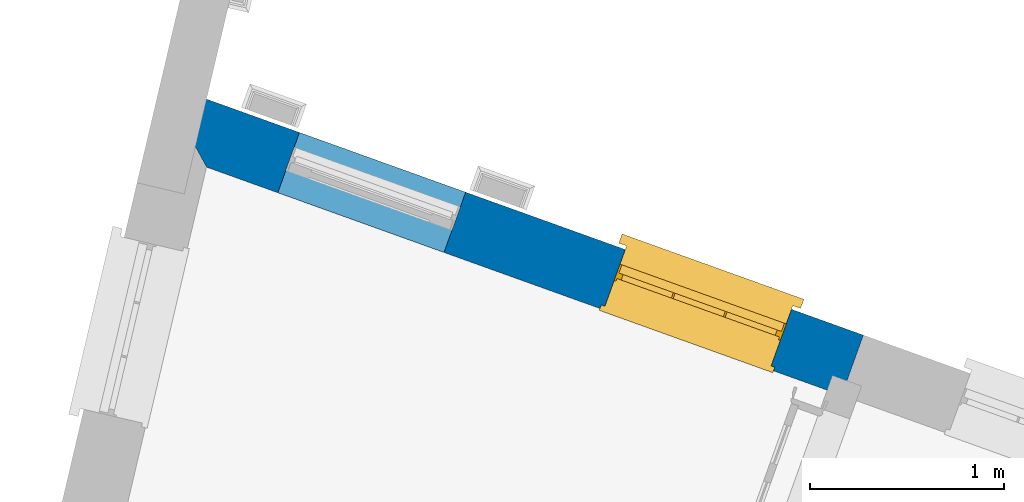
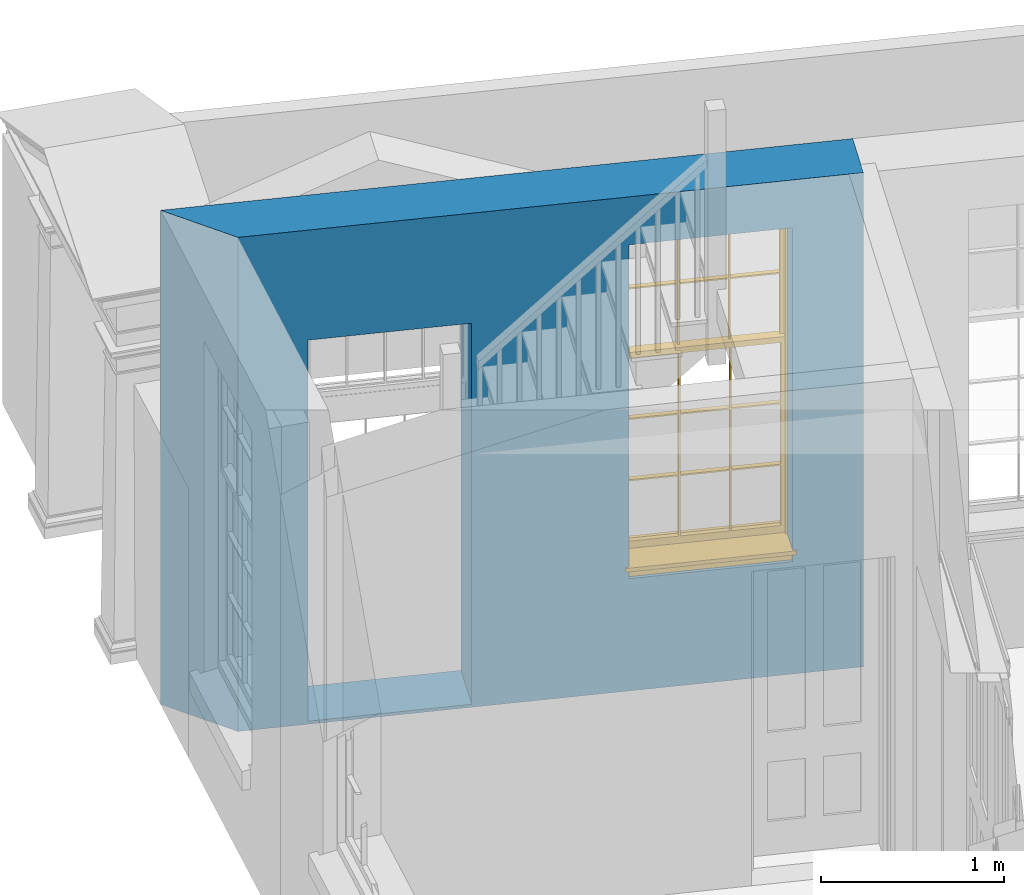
# One storey, part 4 of 6: 1 wall, 1 window, 2 openings.
"""IFC4 building model written with IfcOpenShell, lengths in metres."""

from ifc_helpers import new_model, si_unit, frame, origin, origin_with_axes, place, context, subcontext, project, spatial, polyline, outline, extrude, faceted_brep, source, transform, mapped, material, layer, layer_set, layer_usage, type_object, type_shapes, element, fill, save


model = new_model("IFC4")

# Units and contexts
model_context = context("Model", 3, world=origin_with_axes())
body_context = subcontext(model_context, "Body", "Model", "MODEL_VIEW")
ifc_project = project(units=[si_unit("PLANEANGLEUNIT", "RADIAN"), si_unit("MASSUNIT", "GRAM", prefix="KILO"), si_unit("FORCEUNIT", "NEWTON", prefix="KILO"), si_unit("LENGTHUNIT", "METRE"), si_unit("AREAUNIT", "SQUARE_METRE"), si_unit("VOLUMEUNIT", "CUBIC_METRE")], contexts=[model_context, model_context])

# Sites, building, storey
site_1_placement = place(None, origin_with_axes())
site_1 = spatial("IfcSite", under=ifc_project, at=site_1_placement, Name="Tamar")
site_2_placement = place(site_1_placement, origin_with_axes())
site_2 = spatial("IfcSite", under=site_1, at=site_2_placement, Name="Site plot-22", CompositionType="ELEMENT")
building_placement = place(None, origin_with_axes())
building = spatial("IfcBuilding", under=site_2, at=building_placement, Name="Building plot-22", CompositionType="ELEMENT")
storey_placement = place(None, frame((0.0, 0.0, 24.5), z_axis=(0.0, 0.0, 1.0), x_axis=(1.0, 0.0, 0.0)))
storey = spatial("IfcBuildingStorey", under=building, at=storey_placement, Name="plot-22 0", CompositionType="ELEMENT", Elevation=24.5)

# Wall, openings, window
ifc_material = material(Name="Masonry")
ifc_layer = layer(ifc_material, 0.33, ventilated=False)
ifc_layer_set = layer_set([ifc_layer], Name="exterior_0.08_0.25")
ifc_layer_usage = layer_usage(ifc_layer_set, "AXIS2", "POSITIVE", -0.25)
wall_type = type_object("IfcWallType", Name="exterior_0.08_0.25", PredefinedType="SOLIDWALL", material=ifc_layer_set)
wall_placement = place(storey_placement, frame((254.429625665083, 275.023925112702, 0.0), z_axis=(0.0, 0.0, 1.0), x_axis=(-0.941087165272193, 0.338164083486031, 0.0)))
wall = element("IfcWall", 1, at=wall_placement, inside=storey, type_object=wall_type, material=ifc_layer_usage, Name="exterior", context=body_context, shape_type="SweptSolid", body=[
    extrude(outline(polyline([(5.58265906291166e-15, 0.0799999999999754), (-3.34024049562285e-14, -0.250000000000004), (3.8477904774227, -0.24999999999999), (3.47775004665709, 0.0800000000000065), (5.58265906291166e-15, 0.0799999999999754)])), origin_with_axes(), (0.0, 0.0, 1.0), 3.3),
])
opening_1_placement = place(wall_placement, frame((0.393728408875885, 0.0, 0.75)))
opening_1 = element("IfcOpeningElement", 2, at=opening_1_placement, cuts=wall, Name="My Opening", ObjectType="Opening", context=body_context, shape_type="SweptSolid", body=[
    extrude(outline(polyline([(0.0, -0.270000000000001), (0.910000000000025, -0.27000000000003), (0.910000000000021, 1.09999999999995), (-4.21884749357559e-15, 1.09999999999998), (0.0, -0.270000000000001)])), origin_with_axes(), (0.0, 0.0, 1.0), 2.23),
])
opening_2_placement = place(wall_placement, frame((2.17745681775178, 0.0, 0.0199999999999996)))
element("IfcOpeningElement", 3, at=opening_2_placement, cuts=wall, Name="My Opening", ObjectType="Opening", context=body_context, shape_type="SweptSolid", body=[
    extrude(outline(polyline([(0.0, -0.270000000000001), (0.910000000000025, -0.27000000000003), (0.910000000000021, 1.09999999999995), (-4.44089209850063e-15, 1.09999999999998), (0.0, -0.270000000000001)])), origin_with_axes(), (0.0, 0.0, 1.0), 2.545),
])
window_type = type_object("IfcWindowType", Name="sash_big_taller", PartitioningType="DOUBLE_PANEL_HORIZONTAL", PredefinedType="NOTDEFINED")
shared_shape = source(origin(), body_context, "Body", "Brep", [
    faceted_brep([(0.033125, 0.145, 1.385209), (0.01, 0.145, 1.385209), (0.033125, 0.145, 1.786042), (0.876875, 0.145, 1.385209), (0.876875, 0.145, 1.786042), (0.9, 0.145, 1.385209), (0.876875, 0.145, 1.796042), (0.876875, 0.145, 2.196875), (0.9, 0.145, 2.22), (0.033125, 0.145, 2.196875), (0.033125, 0.145, 1.796042), (0.01, 0.145, 2.22), (0.876875, 0.115, 1.786042), (0.876875, 0.115, 1.385209), (0.9, 0.115, 1.347084), (0.033125, 0.115, 2.196875), (0.01, 0.115, 2.22), (0.033125, 0.115, 1.796042), (0.01, 0.115, 1.347084), (0.033125, 0.115, 1.385209), (0.033125, 0.115, 1.786042), (0.876875, 0.115, 2.196875), (0.876875, 0.115, 1.796042), (0.9, 0.115, 2.22), (0.033125, 0.145, 1.347084), (0.01, 0.145, 1.347084), (0.033125, 0.145, 0.94625), (0.876875, 0.145, 1.347084), (0.876875, 0.145, 0.94625), (0.9, 0.145, 1.347084), (0.876875, 0.145, 0.52625), (0.876875, 0.145, 0.125417), (0.9, 0.145, 0.077167), (0.033125, 0.145, 0.125417), (0.033125, 0.145, 0.52625), (0.01, 0.145, 0.077167), (-0.0425, 0.0, 0.01), (-0.0425, -0.05, 0.001667), (0.0, 0.0, 0.01), (0.9525, 0.0, 0.01), (0.91, 0.0, 0.01), (0.9525, -0.05, 0.001667), (-0.02, 0.33, 0.077167), (0.0, 0.33, 0.077167), (-0.02, 0.36, 0.077167), (0.0, 0.19, 0.077167), (0.01, 0.19, 0.077167), (0.91, 0.19, 0.077167), (0.91, 0.33, 0.077167), (0.9, 0.19, 0.077167), (0.93, 0.33, 0.077167), (0.93, 0.36, 0.077167), (0.01, 0.175, 1.385209), (0.9, 0.175, 1.385209), (0.876875, 0.175, 0.125417), (0.876875, 0.175, 0.52625), (0.9, 0.175, 0.077167), (0.876875, 0.175, 0.94625), (0.876875, 0.175, 1.347084), (0.033125, 0.175, 0.125417), (0.01, 0.175, 0.077167), (0.033125, 0.175, 0.52625), (0.033125, 0.175, 1.347084), (0.033125, 0.175, 0.94625), (-0.02, 0.33, 0.052167), (-0.02, 0.36, 0.052167), (0.93, 0.36, 0.052167), (0.93, 0.33, 0.052167), (0.91, 0.33, 0.052167), (0.0, 0.33, 0.052167), (0.91, 0.1, 0.026667), (0.0, 0.1, 0.026667), (-0.0425, -0.05, -0.123333), (0.9525, -0.05, -0.123333), (-0.0425, 0.0, -0.123333), (0.9525, 0.0, -0.123333), (0.01, 0.19, 2.22), (0.9, 0.19, 2.22), (0.0, 0.19, 2.23), (0.91, 0.19, 2.23), (0.01, 0.1, 0.077167), (0.9, 0.1, 0.077167), (0.592292, 0.145, 0.125417), (0.592292, 0.175, 0.125417), (0.317708, 0.175, 0.125417), (0.317708, 0.145, 0.125417), (0.592292, 0.145, 0.53625), (0.317708, 0.145, 0.53625), (0.317708, 0.145, 0.52625), (0.592292, 0.145, 0.52625), (0.592292, 0.175, 0.53625), (0.317708, 0.175, 0.53625), (0.592292, 0.115, 1.796042), (0.592292, 0.145, 1.796042), (0.317708, 0.145, 1.796042), (0.317708, 0.115, 1.796042), (0.317708, 0.115, 1.786042), (0.592292, 0.115, 1.786042), (0.317708, 0.145, 1.786042), (0.592292, 0.145, 1.786042), (0.602292, 0.115, 1.786042), (0.592292, 0.115, 1.385209), (0.602292, 0.115, 1.385209), (0.602292, 0.145, 1.385209), (0.592292, 0.145, 1.385209), (0.602292, 0.145, 1.786042), (0.876875, 0.145, 0.53625), (0.876875, 0.175, 0.53625), (0.602292, 0.175, 0.53625), (0.602292, 0.145, 0.53625), (0.317708, 0.175, 0.52625), (0.307708, 0.175, 0.125417), (0.307708, 0.175, 0.52625), (0.602292, 0.175, 0.52625), (0.602292, 0.175, 0.125417), (0.592292, 0.175, 0.52625), (0.307708, 0.175, 0.53625), (0.033125, 0.175, 0.53625), (0.317708, 0.175, 1.347084), (0.317708, 0.175, 0.94625), (0.307708, 0.175, 0.94625), (0.307708, 0.175, 1.347084), (0.602292, 0.175, 1.347084), (0.602292, 0.175, 0.94625), (0.592292, 0.175, 0.94625), (0.592292, 0.175, 1.347084), (0.307708, 0.145, 0.52625), (0.307708, 0.145, 0.125417), (0.307708, 0.145, 0.53625), (0.033125, 0.145, 0.53625), (0.307708, 0.145, 1.347084), (0.307708, 0.145, 0.94625), (0.592292, 0.145, 1.347084), (0.592292, 0.145, 0.94625), (0.317708, 0.145, 0.94625), (0.317708, 0.145, 1.347084), (0.602292, 0.145, 0.94625), (0.602292, 0.145, 1.347084), (0.602292, 0.145, 0.52625), (0.602292, 0.145, 0.125417), (0.307708, 0.115, 1.796042), (0.307708, 0.115, 1.786042), (0.307708, 0.115, 1.385209), (0.317708, 0.115, 1.385209), (0.317708, 0.115, 2.196875), (0.307708, 0.115, 2.196875), (0.602292, 0.115, 2.196875), (0.592292, 0.115, 2.196875), (0.602292, 0.115, 1.796042), (0.602292, 0.145, 1.796042), (0.307708, 0.145, 1.796042), (0.307708, 0.145, 2.196875), (0.317708, 0.145, 2.196875), (0.592292, 0.145, 2.196875), (0.602292, 0.145, 2.196875), (0.307708, 0.145, 1.786042), (0.317708, 0.145, 1.385209), (0.307708, 0.145, 1.385209), (0.876875, 0.175, 0.93625), (0.033125, 0.175, 0.93625), (0.033125, 0.145, 0.93625), (0.876875, 0.145, 0.93625), (0.91, 0.1, 2.23), (0.9, 0.1, 2.22), (0.01, 0.1, 2.22), (0.0, 0.1, 2.23), (0.91, 0.0, 0.0), (0.0, 0.0, 0.0), (0.91, 0.33, 0.0), (0.0, 0.33, 0.0), (0.317708, 0.145, 0.93625), (0.592292, 0.145, 0.93625), (0.317708, 0.175, 0.93625), (0.307708, 0.175, 0.93625), (0.602292, 0.175, 0.93625), (0.592292, 0.175, 0.93625), (0.307708, 0.145, 0.93625), (0.602292, 0.145, 0.93625)], [[[0, 1, 2]], [[3, 4, 5]], [[6, 7, 8]], [[9, 10, 11]], [[12, 13, 14]], [[15, 16, 17]], [[18, 19, 20]], [[21, 22, 23]], [[24, 25, 26]], [[27, 28, 29]], [[30, 31, 32]], [[33, 34, 35]], [[14, 27, 29]], [[25, 24, 18]], [[36, 37, 38]], [[39, 40, 41]], [[42, 43, 44]], [[45, 46, 43]], [[47, 48, 49]], [[50, 51, 48]], [[1, 0, 52]], [[5, 53, 3]], [[54, 55, 56]], [[57, 58, 53]], [[59, 60, 61]], [[62, 63, 52]], [[48, 43, 46, 49]], [[51, 44, 43, 48]], [[64, 42, 44, 65]], [[65, 44, 51, 66]], [[66, 51, 50, 67]], [[65, 66, 68, 69]], [[60, 56, 49, 46]], [[70, 71, 38, 40]], [[37, 41, 40, 38]], [[37, 72, 73, 41]], [[74, 75, 73, 72]], [[8, 11, 76, 77]], [[76, 78, 79, 77]], [[32, 35, 80, 81]], [[81, 80, 71, 70]], [[82, 83, 84, 85]], [[86, 87, 88, 89]], [[86, 90, 91, 87]], [[92, 93, 94, 95]], [[92, 95, 96, 97]], [[96, 98, 99, 97]], [[100, 97, 101, 102]], [[103, 104, 99, 105]], [[97, 99, 104, 101]], [[102, 103, 105, 100]], [[106, 107, 108, 109]], [[110, 84, 111, 112]], [[113, 114, 83, 115]], [[116, 112, 61, 117]], [[90, 115, 110, 91]], [[118, 119, 120, 121]], [[122, 123, 124, 125]], [[113, 108, 107, 55]], [[126, 112, 111, 127]], [[34, 61, 112, 126]], [[89, 115, 83, 82]], [[88, 110, 115, 89]], [[85, 84, 110, 88]], [[128, 116, 117, 129]], [[130, 121, 120, 131]], [[132, 125, 124, 133]], [[134, 119, 118, 135]], [[136, 123, 122, 137]], [[138, 113, 55, 30]], [[139, 114, 113, 138]], [[138, 30, 106, 109]], [[88, 126, 127, 85]], [[138, 89, 82, 139]], [[137, 132, 133, 136]], [[128, 129, 34, 126]], [[135, 130, 131, 134]], [[140, 17, 20, 141]], [[96, 141, 142, 143]], [[144, 145, 140, 95]], [[146, 147, 92, 148]], [[100, 12, 22, 148]], [[149, 6, 4, 105]], [[94, 150, 151, 152]], [[149, 93, 153, 154]], [[99, 98, 94, 93]], [[155, 2, 10, 150]], [[156, 157, 155, 98]], [[141, 155, 157, 142]], [[20, 2, 155, 141]], [[143, 156, 98, 96]], [[140, 150, 10, 17]], [[145, 151, 150, 140]], [[147, 153, 93, 92]], [[95, 94, 152, 144]], [[22, 6, 149, 148]], [[148, 149, 154, 146]], [[100, 105, 4, 12]], [[109, 86, 89, 138]], [[108, 113, 115, 90]], [[91, 110, 112, 116]], [[87, 128, 126, 88]], [[97, 100, 148, 92]], [[141, 96, 95, 140]], [[98, 155, 150, 94]], [[105, 99, 93, 149]], [[143, 101, 104, 156]], [[135, 118, 125, 132]], [[144, 152, 153, 147]], [[127, 111, 59, 33]], [[15, 9, 151, 145]], [[146, 154, 7, 21]], [[31, 54, 114, 139]], [[36, 74, 72, 37]], [[39, 41, 73, 75]], [[18, 14, 101, 143]], [[23, 16, 144, 147]], [[83, 56, 60, 84]], [[52, 53, 125, 118]], [[53, 52, 156, 104]], [[11, 8, 153, 152]], [[14, 18, 135, 132]], [[2, 1, 11, 10]], [[8, 5, 4, 6]], [[57, 53, 56, 158]], [[60, 52, 63, 159]], [[26, 25, 35, 160]], [[32, 29, 28, 161]], [[14, 23, 22, 12]], [[18, 20, 17, 16]], [[19, 0, 2, 20]], [[17, 10, 9, 15]], [[12, 4, 3, 13]], [[21, 7, 6, 22]], [[27, 58, 57, 28]], [[30, 55, 54, 31]], [[33, 59, 61, 34]], [[26, 63, 62, 24]], [[5, 8, 77, 53]], [[76, 11, 1, 52]], [[46, 45, 78, 76]], [[49, 77, 79, 47]], [[70, 162, 163, 81]], [[71, 80, 164, 165]], [[19, 142, 157, 0]], [[102, 13, 3, 103]], [[121, 130, 24, 62]], [[29, 32, 81, 14]], [[80, 35, 25, 18]], [[60, 46, 76, 52]], [[77, 49, 56, 53]], [[23, 14, 81, 163]], [[16, 164, 80, 18]], [[35, 85, 127]], [[127, 33, 35]], [[139, 82, 32]], [[32, 31, 139]], [[32, 82, 85, 35]], [[102, 101, 14]], [[14, 13, 102]], [[18, 143, 142]], [[142, 19, 18]], [[146, 21, 23]], [[23, 147, 146]], [[16, 15, 145]], [[145, 144, 16]], [[11, 152, 151]], [[151, 9, 11]], [[154, 153, 8]], [[8, 7, 154]], [[23, 163, 164, 16]], [[162, 165, 164, 163]], [[52, 118, 121]], [[121, 62, 52]], [[125, 53, 122]], [[58, 122, 53]], [[27, 137, 122, 58]], [[56, 83, 114]], [[114, 54, 56]], [[111, 84, 60]], [[60, 59, 111]], [[137, 27, 14]], [[14, 132, 137]], [[130, 135, 18]], [[18, 24, 130]], [[157, 156, 52]], [[52, 0, 157]], [[103, 3, 53]], [[53, 104, 103]], [[79, 78, 165, 162]], [[78, 45, 71, 165]], [[162, 70, 47, 79]], [[166, 75, 74, 167]], [[68, 66, 67]], [[48, 68, 67, 50]], [[69, 64, 65]], [[42, 64, 69, 43]], [[69, 68, 168, 169]], [[70, 68, 48, 47]], [[166, 168, 68, 70]], [[43, 69, 71, 45]], [[69, 169, 167, 71]], [[168, 166, 167, 169]], [[38, 167, 74, 36]], [[71, 167, 38]], [[39, 75, 166, 40]], [[40, 166, 70]], [[133, 134, 170, 171]], [[133, 124, 119, 134]], [[28, 57, 123, 136]], [[172, 91, 116, 173]], [[174, 108, 90, 175]], [[120, 173, 159, 63]], [[124, 175, 172, 119]], [[174, 123, 57, 158]], [[176, 173, 116, 128]], [[160, 159, 173, 176]], [[171, 175, 90, 86]], [[170, 172, 175, 171]], [[87, 91, 172, 170]], [[131, 120, 63, 26]], [[177, 174, 158, 161]], [[109, 108, 174, 177]], [[177, 161, 28, 136]], [[170, 176, 128, 87]], [[177, 171, 86, 109]], [[131, 26, 160, 176]], [[136, 133, 171, 177]], [[123, 174, 175, 124]], [[119, 172, 173, 120]], [[134, 131, 176, 170]], [[129, 117, 159, 160]], [[161, 158, 107, 106]], [[35, 34, 129]], [[35, 129, 160]], [[32, 106, 30]], [[32, 161, 106]], [[56, 55, 107]], [[56, 107, 158]], [[60, 117, 61]], [[60, 159, 117]]]),
])
type_shapes(window_type, [shared_shape])
window_placement = place(storey_placement, frame((254.150397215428, 275.411163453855, 0.75), z_axis=(0.0, 0.0, 1.0), x_axis=(-0.85638932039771, 0.307729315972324, 0.0)))
window = element("IfcWindow", 4, at=window_placement, inside=storey, type_object=window_type, Name="circulation outside window", OverallHeight=2.23, OverallWidth=0.91, context=body_context, shape_type="MappedRepresentation", body=[
    mapped(shared_shape, transform((0.0, 0.0, 0.0), scale=1.0)),
])
fill(opening_1, window)

save(model, "model.ifc")
